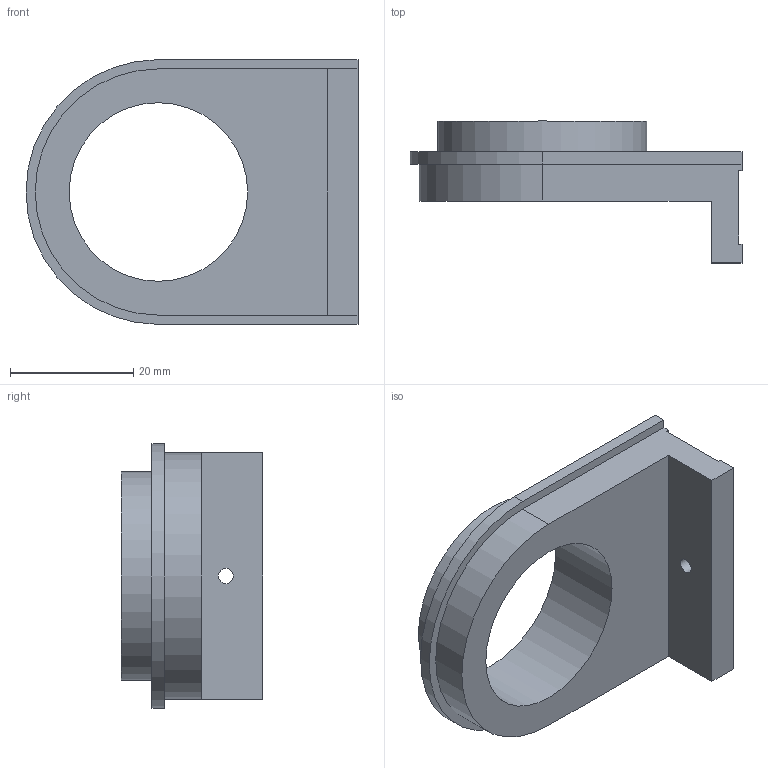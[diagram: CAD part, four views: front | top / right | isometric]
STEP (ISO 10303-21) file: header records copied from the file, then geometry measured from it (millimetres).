
FILE_DESCRIPTION(/* description */ (''),/* implementation_level */ '2;1');
FILE_NAME(/* name */ 'C:\Users\strothej\Documents\ActualDocuments\MicroscopeParts\TwoPhotonSystem\ScanningMechanics\v28\Drawings\Objective_Bracket_Cantilever.stp',/* time_stamp */ '2017-06-14T11:09:05-07:00',/* author */ ('strothej'),/* organization */ (''),/* preprocessor_version */ 'ST-DEVELOPER v16.1',/* originating_system */ 'Autodesk Inventor 2016',/* authorisation */ '');
FILE_SCHEMA (('AUTOMOTIVE_DESIGN { 1 0 10303 214 3 1 1 }'));
Length unit declared in the file: millimetre
Products named in the file (1): Objective_Bracket_Cantilever
Bounding box: 53.92 x 23 x 43 mm (x, y, z)
Volume: 13271.6 mm3; surface area: 7240.8 mm2
Topology: 1 solids, 1 shells, 36 faces, 96 edges, 65 vertices
Faces by surface type: plane 21, cylinder 13, cone 2
Full cylindrical faces by diameter (mm): 2.459 x3, 3 x2, 29 x1, 33.975 x1
Entity records: 1054 total; most frequent: DIRECTION 180, CARTESIAN_POINT 175, ORIENTED_EDGE 160, EDGE_CURVE 80, AXIS2_PLACEMENT_3D 63, VERTEX_POINT 58, LINE 54, VECTOR 54
